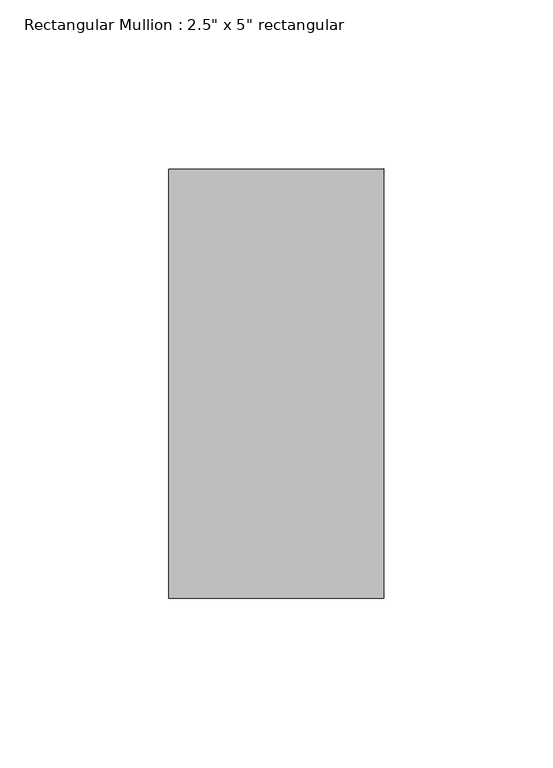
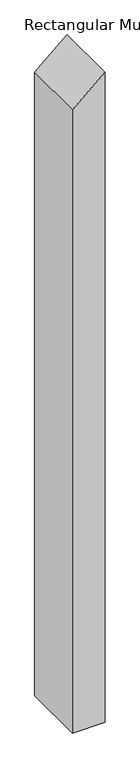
"""IFC4 building model written with IfcOpenShell, lengths in millimetres: member geometry."""

from ifc_helpers import new_model, si_unit, frame, origin, place, context, project, spatial, polyline, outline, extrude, source, transform, mapped, element, save


def member_72cfdebd(model_context):
    return source(origin(), model_context, "Body", "SweptSolid", [
        extrude(outline(polyline([(0.0, 0.0), (-54.5163542, -63.5), (-1339.3060591, -63.5), (-1339.3060591, 0.0), (0.0, 0.0)])), frame((0.0, -63.5, 0.0), z_axis=(0.0, 1.0, 0.0), x_axis=(0.0, 0.0, 1.0)), (0.0, 0.0, 1.0), 127.0),
    ])


if __name__ == "__main__":
    model = new_model("IFC4")
    model_context = context("Model", 3, world=origin())
    ifc_project = project(units=[si_unit("LENGTHUNIT", "METRE", prefix="MILLI")], contexts=[model_context])
    site = spatial("IfcSite", under=ifc_project)
    building = spatial("IfcBuilding", under=site)
    placement = place(None, origin())
    member_shape = member_72cfdebd(model_context)
    element("IfcMember", 1, ObjectType="Rectangular Mullion : 2.5\" x 5\" rectangular", at=placement, inside=building, context=model_context, shape_type="MappedRepresentation", body=[
        mapped(member_shape, transform((0.0, 0.0, 0.0), x_axis=(1.0, 0.0, 0.0), y_axis=(0.0, 1.0, 0.0), z_axis=(0.0, 0.0, 1.0))),
    ])
    save(model, "model.ifc")
